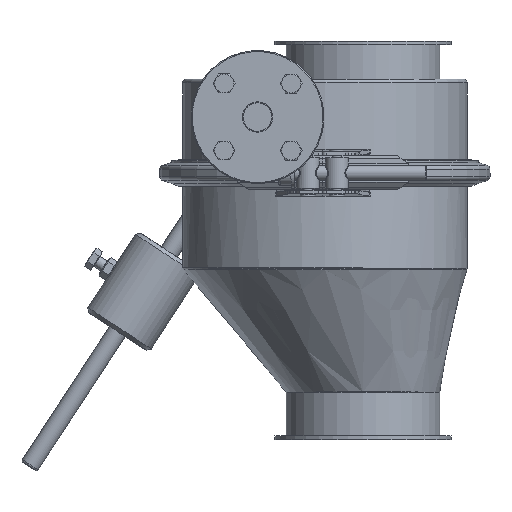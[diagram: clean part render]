
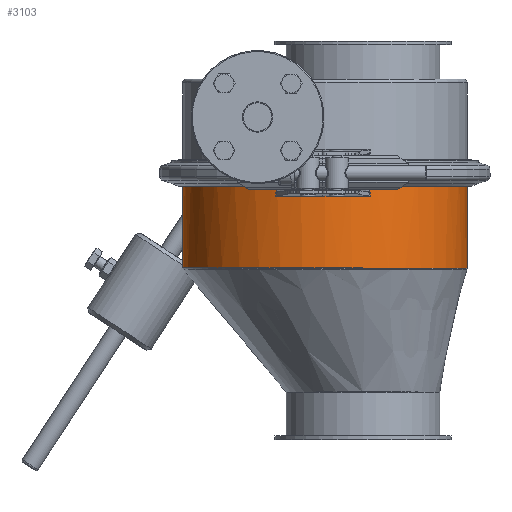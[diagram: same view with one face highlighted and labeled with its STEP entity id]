
A CAD part, left-side view. The second image highlights one B-rep face of the part: STEP entity #3103.
In plain terms, the highlighted cylindrical face has radius 75 mm (diameter 150 mm), a full revolution.
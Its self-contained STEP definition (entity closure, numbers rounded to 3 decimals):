
#2848=CARTESIAN_POINT('',(-75.,19.73,-79.503));
#2849=VERTEX_POINT('',#2848);
#2917=CARTESIAN_POINT('',(-75.,19.73,-79.503));
#2918=CARTESIAN_POINT('',(-75.02,25.307,-79.484));
#2919=CARTESIAN_POINT('',(-74.107,33.766,-79.456));
#2920=CARTESIAN_POINT('',(-71.013,44.603,-79.421));
#2921=CARTESIAN_POINT('',(-66.79,54.927,-79.388));
#2922=CARTESIAN_POINT('',(-59.246,67.01,-79.352));
#2923=CARTESIAN_POINT('',(-48.724,77.599,-79.321));
#2924=CARTESIAN_POINT('',(-37.822,85.094,-79.3));
#2925=CARTESIAN_POINT('',(-27.743,89.976,-79.286));
#2926=CARTESIAN_POINT('',(-16.999,93.342,-79.277));
#2927=CARTESIAN_POINT('',(-5.816,95.051,-79.272));
#2928=CARTESIAN_POINT('',(5.345,95.092,-79.272));
#2929=CARTESIAN_POINT('',(20.305,92.881,-79.278));
#2930=CARTESIAN_POINT('',(34.283,87.442,-79.293));
#2931=CARTESIAN_POINT('',(46.802,78.967,-79.317));
#2932=CARTESIAN_POINT('',(55.011,71.383,-79.339));
#2933=CARTESIAN_POINT('',(60.906,64.05,-79.361));
#2934=CARTESIAN_POINT('',(64.918,57.698,-79.38));
#2935=CARTESIAN_POINT('',(68.426,51.098,-79.4));
#2936=CARTESIAN_POINT('',(71.865,42.424,-79.428));
#2937=CARTESIAN_POINT('',(74.418,31.381,-79.464));
#2938=CARTESIAN_POINT('',(75.276,20.218,-79.501));
#2939=CARTESIAN_POINT('',(74.476,8.989,-79.54));
#2940=CARTESIAN_POINT('',(71.977,-2.047,-79.579));
#2941=CARTESIAN_POINT('',(67.928,-12.447,-79.617));
#2942=CARTESIAN_POINT('',(62.288,-22.283,-79.653));
#2943=CARTESIAN_POINT('',(55.306,-31.065,-79.686));
#2944=CARTESIAN_POINT('',(47.103,-38.727,-79.716));
#2945=CARTESIAN_POINT('',(37.749,-45.132,-79.741));
#2946=CARTESIAN_POINT('',(27.695,-49.996,-79.76));
#2947=CARTESIAN_POINT('',(17.815,-53.082,-79.772));
#2948=CARTESIAN_POINT('',(8.544,-54.666,-79.778));
#2949=CARTESIAN_POINT('',(-2.593,-55.326,-79.781));
#2950=CARTESIAN_POINT('',(-16.731,-53.758,-79.775));
#2951=CARTESIAN_POINT('',(-32.622,-48.234,-79.753));
#2952=CARTESIAN_POINT('',(-44.689,-40.691,-79.723));
#2953=CARTESIAN_POINT('',(-53.019,-33.266,-79.695));
#2954=CARTESIAN_POINT('',(-60.556,-24.878,-79.663));
#2955=CARTESIAN_POINT('',(-68.09,-12.912,-79.618));
#2956=CARTESIAN_POINT('',(-73.678,2.955,-79.561));
#2957=CARTESIAN_POINT('',(-74.98,14.151,-79.522));
#2958=CARTESIAN_POINT('',(-75.,19.729,-79.503));
#2959=CARTESIAN_POINT('',(-75.,19.729,-79.503));
#2960=CARTESIAN_POINT('',(-75.,19.73,-79.503));
#2961=CARTESIAN_POINT('',(-75.,19.73,-79.503));
#2962=B_SPLINE_CURVE_WITH_KNOTS('',3,(#2917,#2918,#2919,#2920,#2921,#2922,#2923,#2924,#2925,#2926,#2927,#2928,#2929,#2930,#2931,#2932,#2933,#2934,#2935,#2936,#2937,#2938,#2939,#2940,#2941,#2942,#2943,#2944,#2945,#2946,#2947,#2948,#2949,#2950,#2951,#2952,#2953,#2954,#2955,#2956,#2957,#2958,#2959,#2960,#2961),.UNSPECIFIED.,.T.,.U.,(4,1,1,1,1,1,1,1,1,1,1,1,1,1,1,1,1,1,1,1,1,1,1,1,1,1,1,1,1,1,1,1,1,1,1,1,1,1,1,3,4),(-3.142,-2.917,-2.805,-2.693,-2.468,-2.244,-2.094,-1.945,-1.795,-1.646,-1.496,-1.346,-1.047,-0.898,-0.748,-0.598,-0.524,-0.449,-0.299,-0.15,0.,0.15,0.299,0.449,0.598,0.748,0.898,1.047,1.197,1.346,1.459,1.571,1.795,2.02,2.244,2.356,2.468,2.693,2.917,3.142,3.142),.UNSPECIFIED.);
#2963=EDGE_CURVE('',#2849,#2849,#2962,.T.);
#3084=CARTESIAN_POINT('',(0.0,20.0,-25.0));
#3085=DIRECTION('',(0.0,0.0,-1.0));
#3086=DIRECTION('',(1.0,0.0,0.0));
#3087=AXIS2_PLACEMENT_3D('',#3084,#3085,#3086);
#3088=CYLINDRICAL_SURFACE('',#3087,75.0);
#3089=CARTESIAN_POINT('',(-75.0,20.,-27.0));
#3090=VERTEX_POINT('',#3089);
#3091=CARTESIAN_POINT('',(0.0,20.0,-27.0));
#3092=DIRECTION('',(0.0,0.0,1.0));
#3093=DIRECTION('',(1.0,0.0,0.0));
#3094=AXIS2_PLACEMENT_3D('',#3091,#3092,#3093);
#3095=CIRCLE('',#3094,75.0);
#3096=EDGE_CURVE('',#3090,#3090,#3095,.T.);
#3097=ORIENTED_EDGE('',*,*,#3096,.F.);
#3098=EDGE_LOOP('',(#3097));
#3099=FACE_OUTER_BOUND('',#3098,.T.);
#3100=ORIENTED_EDGE('',*,*,#2963,.F.);
#3101=EDGE_LOOP('',(#3100));
#3102=FACE_BOUND('',#3101,.T.);
#3103=ADVANCED_FACE('',(#3099,#3102),#3088,.T.);
